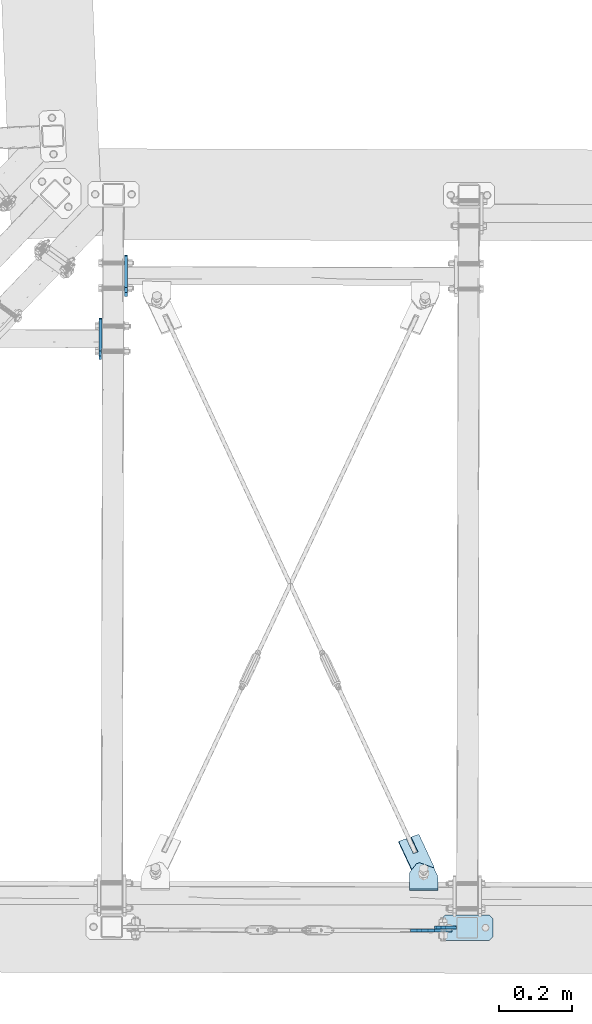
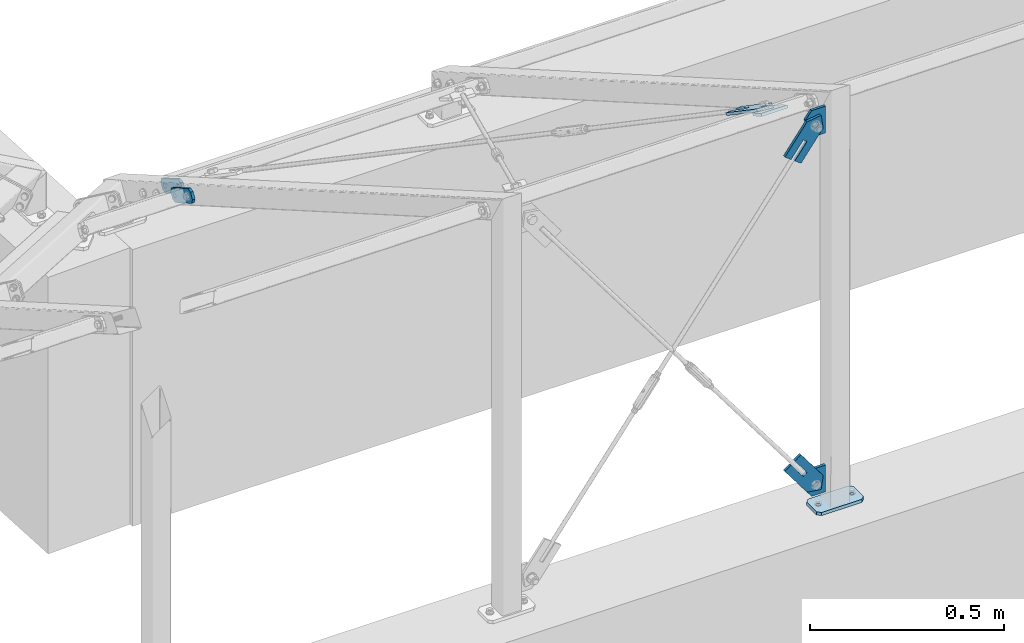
# One storey, part 28 of 288: 9 plates, 38 openings.
"""IFC2X3 building model written with IfcOpenShell, lengths in millimetres."""

from ifc_helpers import new_model, entity, si_unit, converted_unit, point, frame, frame_2d, origin, origin_with_axes, origin_2d_with_axis, place, context, project, spatial, polyline, circle_curve, line_curve, trimmed, segment, composite_curve, circle, outline, extrude, material, layer, layer_set, element, save


model = new_model("IFC2X3")

# Units and contexts
model_context = context("Model", 3, precision=1e-09, world=origin_with_axes())
ifc_project = project(units=[si_unit("LENGTHUNIT", "METRE", prefix="MILLI"), si_unit("AREAUNIT", "SQUARE_METRE"), si_unit("VOLUMEUNIT", "CUBIC_METRE"), converted_unit("PLANEANGLEUNIT", "DEGREE", entity("IfcPlaneAngleMeasure", 0.01745329), si_unit("PLANEANGLEUNIT", "RADIAN"), dimensions=[0, 0, 0, 0, 0, 0, 0])], contexts=[model_context])

# Site, building, storey
site_placement = place(None, origin_with_axes())
site = spatial("IfcSite", under=ifc_project, at=site_placement, Name="Remont ?wietlik?w nad MC w NCPP w Opolu", CompositionType="ELEMENT")
building_placement = place(site_placement, origin_with_axes())
building = spatial("IfcBuilding", under=site, at=building_placement, Name="Konstrukcja 1", CompositionType="ELEMENT")
storey_placement = place(building_placement, origin_with_axes())
storey = spatial("IfcBuildingStorey", under=building, at=storey_placement, Name="Default Storey", CompositionType="ELEMENT", Elevation=0.0)

# Plate, openings
ifc_material = material(Name="S235")
ifc_layer_1 = layer(ifc_material, 8.0)
ifc_layer_set_1 = layer_set([ifc_layer_1], Name="S235")
plate_1_placement = place(None, frame((1997.991643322, 1595.486455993, 250.98072755), z_axis=(0.999997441, -0.002262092, 1.05e-07), x_axis=(0.001959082, 0.866023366, -0.499999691)))
plate_1 = element("IfcPlate", 1, at=plate_1_placement, inside=storey, material=ifc_layer_set_1, Name="-", ObjectType="-", context=model_context, shape_type="SweptSolid", body=[
    extrude(outline(polyline([(0.0, 0.0), (120.0, 0.0), (120.0, 40.0), (0.0, 40.0), (0.0, 0.0)])), origin_with_axes(), (0.0, 0.0, 1.0), 8.0),
])
opening_1_placement = place(plate_1_placement, frame((0.0, 0.0, -0.01), z_axis=(0.0, 0.0, 1.0), x_axis=(1.0, 0.0, 0.0)))
element("IfcOpeningElement", 2, at=opening_1_placement, cuts=plate_1, ObjectType="Opening", context=model_context, shape_type="SweptSolid", body=[
    extrude(outline(composite_curve([segment(trimmed(line_curve((0.0, 40.0), (0.0, -1.0), 10.0), [point((0.0, 40.0))], [point((0.0, 30.0))], True, "CARTESIAN"), True, "CONTINUOUS"), segment(trimmed(circle_curve(frame_2d((10.0, 30.0), x_axis=(-1.0, 0.0)), 10.0), [point((0.0, 30.0))], [point((10.0, 40.0))], False, "CARTESIAN"), True, "CONTINUOUS"), segment(trimmed(line_curve((10.0, 40.0), (-1.0, 0.0), 10.0), [point((10.0, 40.0))], [point((0.0, 40.0))], True, "CARTESIAN"), True, "CONTINUOUS")], self_intersect=False)), origin(), (0.0, 0.0, 1.0), 8.02),
])
opening_2_placement = place(plate_1_placement, frame((0.0, 0.0, -0.01), z_axis=(0.0, 0.0, 1.0), x_axis=(1.0, 0.0, 0.0)))
element("IfcOpeningElement", 3, at=opening_2_placement, cuts=plate_1, ObjectType="Opening", context=model_context, shape_type="SweptSolid", body=[
    extrude(outline(composite_curve([segment(trimmed(line_curve((0.0, 0.0), (1.0, 0.0), 10.0), [point((0.0, 0.0))], [point((10.0, 0.0))], True, "CARTESIAN"), True, "CONTINUOUS"), segment(trimmed(circle_curve(frame_2d((10.0, 10.0), x_axis=(-1.0, 0.0)), 10.0), [point((10.0, 0.0))], [point((0.0, 10.0))], False, "CARTESIAN"), True, "CONTINUOUS"), segment(trimmed(line_curve((0.0, 10.0), (0.0, -1.0), 10.0), [point((0.0, 10.0))], [point((0.0, 0.0))], True, "CARTESIAN"), True, "CONTINUOUS")], self_intersect=False)), origin(), (0.0, 0.0, 1.0), 8.02),
])
opening_3_placement = place(plate_1_placement, frame((0.0, 0.0, -0.01), z_axis=(0.0, 0.0, 1.0), x_axis=(1.0, 0.0, 0.0)))
element("IfcOpeningElement", 4, at=opening_3_placement, cuts=plate_1, ObjectType="Opening", context=model_context, shape_type="SweptSolid", body=[
    extrude(outline(composite_curve([segment(trimmed(line_curve((120.0, 40.0), (-1.0, 0.0), 10.0), [point((120.0, 40.0))], [point((110.0, 40.0))], True, "CARTESIAN"), True, "CONTINUOUS"), segment(trimmed(circle_curve(frame_2d((110.0, 30.0), x_axis=(-1.0, 0.0)), 10.0), [point((110.0, 40.0))], [point((120.0, 30.0))], False, "CARTESIAN"), True, "CONTINUOUS"), segment(trimmed(line_curve((120.0, 30.0), (0.0, 1.0), 10.0), [point((120.0, 30.0))], [point((120.0, 40.0))], True, "CARTESIAN"), True, "CONTINUOUS")], self_intersect=False)), origin(), (0.0, 0.0, 1.0), 8.02),
])
opening_4_placement = place(plate_1_placement, frame((0.0, 0.0, -0.01), z_axis=(0.0, 0.0, 1.0), x_axis=(1.0, 0.0, 0.0)))
element("IfcOpeningElement", 5, at=opening_4_placement, cuts=plate_1, ObjectType="Opening", context=model_context, shape_type="SweptSolid", body=[
    extrude(outline(composite_curve([segment(trimmed(line_curve((120.0, 0.0), (0.0, 1.0), 10.0), [point((120.0, 0.0))], [point((120.0, 10.0))], True, "CARTESIAN"), True, "CONTINUOUS"), segment(trimmed(circle_curve(frame_2d((110.0, 10.0), x_axis=(-1.0, 0.0)), 10.0), [point((120.0, 10.0))], [point((110.0, 0.0))], False, "CARTESIAN"), True, "CONTINUOUS"), segment(trimmed(line_curve((110.0, 0.0), (1.0, 0.0), 10.0), [point((110.0, 0.0))], [point((120.0, 0.0))], True, "CARTESIAN"), True, "CONTINUOUS")], self_intersect=False)), origin(), (0.0, 0.0, 1.0), 8.02),
])
opening_5_placement = place(plate_1_placement, frame((60.0, 20.0, 8.5), z_axis=(0.0, 0.0, -1.0), x_axis=(-1.0, 0.0, 0.0)))
element("IfcOpeningElement", 6, at=opening_5_placement, cuts=plate_1, ObjectType="Opening", context=model_context, shape_type="SweptSolid", body=[
    extrude(circle(Radius=7.001, at=frame_2d((40.0, 0.0), x_axis=(1.0, 0.0))), origin(), (0.0, 0.0, 1.0), 9.0),
])
opening_6_placement = place(plate_1_placement, frame((60.0, 20.0, 8.5), z_axis=(0.0, 0.0, -1.0), x_axis=(-1.0, 0.0, 0.0)))
element("IfcOpeningElement", 7, at=opening_6_placement, cuts=plate_1, ObjectType="Opening", context=model_context, shape_type="SweptSolid", body=[
    extrude(circle(Radius=7.001, at=frame_2d((-40.0, 0.0), x_axis=(1.0, 0.0))), origin(), (0.0, 0.0, 1.0), 9.0),
])

plate_2_placement = place(None, frame((1927.599855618, 1422.439983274, 350.980405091), z_axis=(0.999997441, -0.002262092, 1.05e-07), x_axis=(0.001959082, 0.866023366, -0.499999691)))
plate_2 = element("IfcPlate", 8, at=plate_2_placement, inside=storey, material=ifc_layer_set_1, Name="-", ObjectType="-", context=model_context, shape_type="SweptSolid", body=[
    extrude(outline(polyline([(0.0, 0.0), (120.0, 0.0), (120.0, 40.0), (0.0, 40.0), (0.0, 0.0)])), origin_with_axes(), (0.0, 0.0, 1.0), 8.0),
])
opening_7_placement = place(plate_2_placement, frame((0.0, 0.0, -0.01), z_axis=(0.0, 0.0, 1.0), x_axis=(1.0, 0.0, 0.0)))
element("IfcOpeningElement", 9, at=opening_7_placement, cuts=plate_2, ObjectType="Opening", context=model_context, shape_type="SweptSolid", body=[
    extrude(outline(composite_curve([segment(trimmed(line_curve((0.0, 40.0), (0.0, -1.0), 10.0), [point((0.0, 40.0))], [point((0.0, 30.0))], True, "CARTESIAN"), True, "CONTINUOUS"), segment(trimmed(circle_curve(frame_2d((10.0, 30.0), x_axis=(-1.0, 0.0)), 10.0), [point((0.0, 30.0))], [point((10.0, 40.0))], False, "CARTESIAN"), True, "CONTINUOUS"), segment(trimmed(line_curve((10.0, 40.0), (-1.0, 0.0), 10.0), [point((10.0, 40.0))], [point((0.0, 40.0))], True, "CARTESIAN"), True, "CONTINUOUS")], self_intersect=False)), origin(), (0.0, 0.0, 1.0), 8.02),
])
opening_8_placement = place(plate_2_placement, frame((0.0, 0.0, -0.01), z_axis=(0.0, 0.0, 1.0), x_axis=(1.0, 0.0, 0.0)))
element("IfcOpeningElement", 10, at=opening_8_placement, cuts=plate_2, ObjectType="Opening", context=model_context, shape_type="SweptSolid", body=[
    extrude(outline(composite_curve([segment(trimmed(line_curve((0.0, 0.0), (1.0, 0.0), 10.0), [point((0.0, 0.0))], [point((10.0, 0.0))], True, "CARTESIAN"), True, "CONTINUOUS"), segment(trimmed(circle_curve(frame_2d((10.0, 10.0), x_axis=(-1.0, 0.0)), 10.0), [point((10.0, 0.0))], [point((0.0, 10.0))], False, "CARTESIAN"), True, "CONTINUOUS"), segment(trimmed(line_curve((0.0, 10.0), (0.0, -1.0), 10.0), [point((0.0, 10.0))], [point((0.0, 0.0))], True, "CARTESIAN"), True, "CONTINUOUS")], self_intersect=False)), origin(), (0.0, 0.0, 1.0), 8.02),
])
opening_9_placement = place(plate_2_placement, frame((0.0, 0.0, -0.01), z_axis=(0.0, 0.0, 1.0), x_axis=(1.0, 0.0, 0.0)))
element("IfcOpeningElement", 11, at=opening_9_placement, cuts=plate_2, ObjectType="Opening", context=model_context, shape_type="SweptSolid", body=[
    extrude(outline(composite_curve([segment(trimmed(line_curve((120.0, 40.0), (-1.0, 0.0), 10.0), [point((120.0, 40.0))], [point((110.0, 40.0))], True, "CARTESIAN"), True, "CONTINUOUS"), segment(trimmed(circle_curve(frame_2d((110.0, 30.0), x_axis=(-1.0, 0.0)), 10.0), [point((110.0, 40.0))], [point((120.0, 30.0))], False, "CARTESIAN"), True, "CONTINUOUS"), segment(trimmed(line_curve((120.0, 30.0), (0.0, 1.0), 10.0), [point((120.0, 30.0))], [point((120.0, 40.0))], True, "CARTESIAN"), True, "CONTINUOUS")], self_intersect=False)), origin(), (0.0, 0.0, 1.0), 8.02),
])
opening_10_placement = place(plate_2_placement, frame((0.0, 0.0, -0.01), z_axis=(0.0, 0.0, 1.0), x_axis=(1.0, 0.0, 0.0)))
element("IfcOpeningElement", 12, at=opening_10_placement, cuts=plate_2, ObjectType="Opening", context=model_context, shape_type="SweptSolid", body=[
    extrude(outline(composite_curve([segment(trimmed(line_curve((120.0, 0.0), (0.0, 1.0), 10.0), [point((120.0, 0.0))], [point((120.0, 10.0))], True, "CARTESIAN"), True, "CONTINUOUS"), segment(trimmed(circle_curve(frame_2d((110.0, 10.0), x_axis=(-1.0, 0.0)), 10.0), [point((120.0, 10.0))], [point((110.0, 0.0))], False, "CARTESIAN"), True, "CONTINUOUS"), segment(trimmed(line_curve((110.0, 0.0), (1.0, 0.0), 10.0), [point((110.0, 0.0))], [point((120.0, 0.0))], True, "CARTESIAN"), True, "CONTINUOUS")], self_intersect=False)), origin(), (0.0, 0.0, 1.0), 8.02),
])
opening_11_placement = place(plate_2_placement, frame((60.0, 20.000292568, 8.5), z_axis=(0.0, 0.0, -1.0), x_axis=(-1.0, 0.0, 0.0)))
element("IfcOpeningElement", 13, at=opening_11_placement, cuts=plate_2, ObjectType="Opening", context=model_context, shape_type="SweptSolid", body=[
    extrude(circle(Radius=7.001, at=frame_2d((40.0, 0.0), x_axis=(1.0, 0.0))), origin(), (0.0, 0.0, 1.0), 9.0),
])
opening_12_placement = place(plate_2_placement, frame((60.0, 20.000292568, 8.5), z_axis=(0.0, 0.0, -1.0), x_axis=(-1.0, 0.0, 0.0)))
element("IfcOpeningElement", 14, at=opening_12_placement, cuts=plate_2, ObjectType="Opening", context=model_context, shape_type="SweptSolid", body=[
    extrude(circle(Radius=7.001, at=frame_2d((-40.0, 0.0), x_axis=(1.0, 0.0))), origin(), (0.0, 0.0, 1.0), 9.0),
])

ifc_layer_2 = layer(ifc_material, 10.0)
ifc_layer_set_2 = layer_set([ifc_layer_2], Name="S235")
plate_3_placement = place(None, frame((3008.536209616, -96.783237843, 10.000000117), z_axis=(0.0, 0.0, -1.0), x_axis=(-0.002261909, -0.999997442, 0.0)))
plate_3 = element("IfcPlate", 15, at=plate_3_placement, inside=storey, material=ifc_layer_set_2, Name="Baseplate", ObjectType="Baseplate", context=model_context, shape_type="SweptSolid", body=[
    extrude(outline(polyline([(0.0, 0.0), (70.0, 0.0), (70.0, 140.0), (0.0, 140.0), (0.0, 0.0)])), origin_with_axes(), (0.0, 0.0, 1.0), 10.0),
])
opening_13_placement = place(plate_3_placement, frame((0.0, 0.0, -0.01), z_axis=(0.0, 0.0, 1.0), x_axis=(1.0, 0.0, 0.0)))
element("IfcOpeningElement", 16, at=opening_13_placement, cuts=plate_3, ObjectType="Opening", context=model_context, shape_type="SweptSolid", body=[
    extrude(outline(composite_curve([segment(trimmed(line_curve((70.0, 0.0), (0.0, 1.0), 10.0), [point((70.0, 0.0))], [point((70.0, 10.0))], True, "CARTESIAN"), True, "CONTINUOUS"), segment(trimmed(circle_curve(frame_2d((60.0, 10.0), x_axis=(-1.0, 0.0)), 10.0), [point((70.0, 10.0))], [point((60.0, 0.0))], False, "CARTESIAN"), True, "CONTINUOUS"), segment(trimmed(line_curve((60.0, 0.0), (1.0, 0.0), 10.0), [point((60.0, 0.0))], [point((70.0, 0.0))], True, "CARTESIAN"), True, "CONTINUOUS")], self_intersect=False)), origin(), (0.0, 0.0, 1.0), 10.02),
])
opening_14_placement = place(plate_3_placement, frame((0.0, 0.0, -0.01), z_axis=(0.0, 0.0, 1.0), x_axis=(1.0, 0.0, 0.0)))
element("IfcOpeningElement", 17, at=opening_14_placement, cuts=plate_3, ObjectType="Opening", context=model_context, shape_type="SweptSolid", body=[
    extrude(outline(composite_curve([segment(trimmed(line_curve((0.0, 0.0), (1.0, 0.0), 10.0), [point((0.0, 0.0))], [point((10.0, 0.0))], True, "CARTESIAN"), True, "CONTINUOUS"), segment(trimmed(circle_curve(frame_2d((10.0, 10.0), x_axis=(-1.0, 0.0)), 10.0), [point((10.0, 0.0))], [point((0.0, 10.0))], False, "CARTESIAN"), True, "CONTINUOUS"), segment(trimmed(line_curve((0.0, 10.0), (0.0, -1.0), 10.0), [point((0.0, 10.0))], [point((0.0, 0.0))], True, "CARTESIAN"), True, "CONTINUOUS")], self_intersect=False)), origin(), (0.0, 0.0, 1.0), 10.02),
])
opening_15_placement = place(plate_3_placement, frame((0.0, 0.0, -0.01), z_axis=(0.0, 0.0, 1.0), x_axis=(1.0, 0.0, 0.0)))
element("IfcOpeningElement", 18, at=opening_15_placement, cuts=plate_3, ObjectType="Opening", context=model_context, shape_type="SweptSolid", body=[
    extrude(outline(composite_curve([segment(trimmed(line_curve((70.0, 140.0), (-1.0, 0.0), 10.0), [point((70.0, 140.0))], [point((60.0, 140.0))], True, "CARTESIAN"), True, "CONTINUOUS"), segment(trimmed(circle_curve(frame_2d((60.0, 130.0), x_axis=(-1.0, 0.0)), 10.0), [point((60.0, 140.0))], [point((70.0, 130.0))], False, "CARTESIAN"), True, "CONTINUOUS"), segment(trimmed(line_curve((70.0, 130.0), (0.0, 1.0), 10.0), [point((70.0, 130.0))], [point((70.0, 140.0))], True, "CARTESIAN"), True, "CONTINUOUS")], self_intersect=False)), origin(), (0.0, 0.0, 1.0), 10.02),
])
opening_16_placement = place(plate_3_placement, frame((0.0, 0.0, -0.01), z_axis=(0.0, 0.0, 1.0), x_axis=(1.0, 0.0, 0.0)))
element("IfcOpeningElement", 19, at=opening_16_placement, cuts=plate_3, ObjectType="Opening", context=model_context, shape_type="SweptSolid", body=[
    extrude(outline(composite_curve([segment(trimmed(line_curve((0.0, 140.0), (0.0, -1.0), 10.0), [point((0.0, 140.0))], [point((0.0, 130.0))], True, "CARTESIAN"), True, "CONTINUOUS"), segment(trimmed(circle_curve(frame_2d((10.0, 130.0), x_axis=(-1.0, 0.0)), 10.0), [point((0.0, 130.0))], [point((10.0, 140.0))], False, "CARTESIAN"), True, "CONTINUOUS"), segment(trimmed(line_curve((10.0, 140.0), (-1.0, 0.0), 10.0), [point((10.0, 140.0))], [point((0.0, 140.0))], True, "CARTESIAN"), True, "CONTINUOUS")], self_intersect=False)), origin(), (0.0, 0.0, 1.0), 10.02),
])
opening_17_placement = place(plate_3_placement, frame((35.0, 20.0, 10.5), z_axis=(0.0, 0.0, -1.0), x_axis=(1.0, 0.0, 0.0)))
element("IfcOpeningElement", 20, at=opening_17_placement, cuts=plate_3, ObjectType="Opening", context=model_context, shape_type="SweptSolid", body=[
    extrude(circle(Radius=6.001, at=origin_2d_with_axis()), origin(), (0.0, 0.0, 1.0), 11.0),
])
opening_18_placement = place(plate_3_placement, frame((35.0, 120.0, 10.5), z_axis=(0.0, 0.0, -1.0), x_axis=(1.0, 0.0, 0.0)))
element("IfcOpeningElement", 21, at=opening_18_placement, cuts=plate_3, ObjectType="Opening", context=model_context, shape_type="SweptSolid", body=[
    extrude(circle(Radius=6.001, at=origin_2d_with_axis()), origin(), (0.0, 0.0, 1.0), 11.0),
])

plate_4_placement = place(None, frame((2782.64498648, -135.257683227, 1146.652453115), z_axis=(-0.002356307, -0.999997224, 0.0), x_axis=(0.800992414, -0.001887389, -0.598671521)))
plate_4 = element("IfcPlate", 22, at=plate_4_placement, inside=storey, material=ifc_layer_set_1, Name="Tab_Plate#2", ObjectType="Tab_Plate#2", context=model_context, shape_type="SweptSolid", body=[
    extrude(outline(polyline([(0.0, 0.0), (60.0, 0.0), (60.0, 140.0), (0.0, 140.0), (0.0, 0.0)])), origin_with_axes(), (0.0, 0.0, 1.0), 8.0),
])
opening_19_placement = place(plate_4_placement, frame((0.0, 0.0, -0.01), z_axis=(0.0, 0.0, 1.0), x_axis=(1.0, 0.0, 0.0)))
element("IfcOpeningElement", 23, at=opening_19_placement, cuts=plate_4, ObjectType="Opening", context=model_context, shape_type="SweptSolid", body=[
    extrude(outline(composite_curve([segment(trimmed(line_curve((60.0, 140.0), (-1.0, 0.0), 30.0), [point((60.0, 140.0))], [point((30.0, 140.0))], True, "CARTESIAN"), True, "CONTINUOUS"), segment(trimmed(circle_curve(frame_2d((30.0, 110.0), x_axis=(-1.0, 0.0)), 30.0), [point((30.0, 140.0))], [point((60.0, 110.0))], False, "CARTESIAN"), True, "CONTINUOUS"), segment(trimmed(line_curve((60.0, 110.0), (0.0, 1.0), 30.0), [point((60.0, 110.0))], [point((60.0, 140.0))], True, "CARTESIAN"), True, "CONTINUOUS")], self_intersect=False)), origin(), (0.0, 0.0, 1.0), 8.02),
])
opening_20_placement = place(plate_4_placement, frame((0.0, 0.0, -0.01), z_axis=(0.0, 0.0, 1.0), x_axis=(1.0, 0.0, 0.0)))
element("IfcOpeningElement", 24, at=opening_20_placement, cuts=plate_4, ObjectType="Opening", context=model_context, shape_type="SweptSolid", body=[
    extrude(outline(composite_curve([segment(trimmed(line_curve((0.0, 140.0), (0.0, -1.0), 30.0), [point((0.0, 140.0))], [point((0.0, 110.0))], True, "CARTESIAN"), True, "CONTINUOUS"), segment(trimmed(circle_curve(frame_2d((30.0, 110.0), x_axis=(-1.0, 0.0)), 30.0), [point((0.0, 110.0))], [point((30.0, 140.0))], False, "CARTESIAN"), True, "CONTINUOUS"), segment(trimmed(line_curve((30.0, 140.0), (-1.0, 0.0), 30.0), [point((30.0, 140.0))], [point((0.0, 140.0))], True, "CARTESIAN"), True, "CONTINUOUS")], self_intersect=False)), origin(), (0.0, 0.0, 1.0), 8.02),
])
opening_21_placement = place(plate_4_placement, frame((0.0, 0.0, 8.1), z_axis=(0.0, 0.0, -1.0), x_axis=(-0.800994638, -0.598671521, 0.0)))
element("IfcOpeningElement", 25, at=opening_21_placement, cuts=plate_4, ObjectType="Opening", context=model_context, shape_type="SweptSolid", body=[
    extrude(outline(polyline([(-54.941637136, 35.092627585), (-66.157164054, 26.710028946), (-29.637003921, -22.152245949), (-18.421477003, -13.76964731), (-54.941637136, 35.092627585)])), origin(), (0.0, 0.0, 1.0), 8.2),
])
opening_22_placement = place(plate_4_placement, frame((30.0, 110.0, 8.5), z_axis=(0.0, 0.0, -1.0), x_axis=(0.0, -1.0, 0.0)))
element("IfcOpeningElement", 26, at=opening_22_placement, cuts=plate_4, ObjectType="Opening", context=model_context, shape_type="SweptSolid", body=[
    extrude(circle(Radius=9.001, at=origin_2d_with_axis()), origin(), (0.0, 0.0, 1.0), 9.0),
])

plate_5_placement = place(None, frame((2878.598120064, -135.48377891, 1174.811732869), z_axis=(0.002356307, 0.999997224, 0.0), x_axis=(-0.800992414, 0.001887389, 0.598671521)))
plate_5 = element("IfcPlate", 27, at=plate_5_placement, inside=storey, material=ifc_layer_set_1, Name="Gusset#2", ObjectType="Gusset#2", context=model_context, shape_type="SweptSolid", body=[
    extrude(outline(polyline([(0.0, 0.0), (60.0, 0.0), (60.0, 60.0), (26.367154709, 85.137529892), (-23.909261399, 17.870024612), (0.0, 0.0)])), origin_with_axes(), (0.0, 0.0, 1.0), 8.0),
])
opening_23_placement = place(plate_5_placement, frame((30.0, 30.0, -0.5), z_axis=(0.0, 0.0, 1.0), x_axis=(0.0, -1.0, 0.0)))
element("IfcOpeningElement", 28, at=opening_23_placement, cuts=plate_5, ObjectType="Opening", context=model_context, shape_type="SweptSolid", body=[
    extrude(circle(Radius=9.001, at=origin_2d_with_axis()), origin(), (0.0, 0.0, 1.0), 9.0),
])
opening_24_placement = place(plate_5_placement, frame((0.0, 0.0, -0.01), z_axis=(0.0, 0.0, 1.0), x_axis=(1.0, 0.0, 0.0)))
element("IfcOpeningElement", 29, at=opening_24_placement, cuts=plate_5, ObjectType="Opening", context=model_context, shape_type="SweptSolid", body=[
    extrude(outline(composite_curve([segment(trimmed(line_curve((60.0, 0.0), (0.0, 1.0), 30.0), [point((60.0, 0.0))], [point((60.0, 30.0))], True, "CARTESIAN"), True, "CONTINUOUS"), segment(trimmed(circle_curve(frame_2d((30.0, 30.0), x_axis=(-1.0, 0.0)), 30.0), [point((60.0, 30.0))], [point((30.0, 0.0))], False, "CARTESIAN"), True, "CONTINUOUS"), segment(trimmed(line_curve((30.0, 0.0), (1.0, 0.0), 30.0), [point((30.0, 0.0))], [point((60.0, 0.0))], True, "CARTESIAN"), True, "CONTINUOUS")], self_intersect=False)), origin(), (0.0, 0.0, 1.0), 8.02),
])

plate_6_placement = place(None, frame((2782.627032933, -143.195004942, 158.347547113), z_axis=(0.002167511, 0.999997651, 0.0), x_axis=(0.800992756, -0.001736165, 0.598671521)))
plate_6 = element("IfcPlate", 30, at=plate_6_placement, inside=storey, material=ifc_layer_set_1, Name="Tab_Plate#1", ObjectType="Tab_Plate#1", context=model_context, shape_type="SweptSolid", body=[
    extrude(outline(polyline([(0.0, 0.0), (60.0, 0.0), (60.0, 140.0), (0.0, 140.0), (0.0, 0.0)])), origin_with_axes(), (0.0, 0.0, 1.0), 8.0),
])
opening_25_placement = place(plate_6_placement, frame((0.0, 0.0, -0.01), z_axis=(0.0, 0.0, 1.0), x_axis=(1.0, 0.0, 0.0)))
element("IfcOpeningElement", 31, at=opening_25_placement, cuts=plate_6, ObjectType="Opening", context=model_context, shape_type="SweptSolid", body=[
    extrude(outline(composite_curve([segment(trimmed(line_curve((60.0, 140.0), (-1.0, 0.0), 30.0), [point((60.0, 140.0))], [point((30.0, 140.0))], True, "CARTESIAN"), True, "CONTINUOUS"), segment(trimmed(circle_curve(frame_2d((30.0, 110.0), x_axis=(-1.0, 0.0)), 30.0), [point((30.0, 140.0))], [point((60.0, 110.0))], False, "CARTESIAN"), True, "CONTINUOUS"), segment(trimmed(line_curve((60.0, 110.0), (0.0, 1.0), 30.0), [point((60.0, 110.0))], [point((60.0, 140.0))], True, "CARTESIAN"), True, "CONTINUOUS")], self_intersect=False)), origin(), (0.0, 0.0, 1.0), 8.02),
])
opening_26_placement = place(plate_6_placement, frame((0.0, 0.0, -0.01), z_axis=(0.0, 0.0, 1.0), x_axis=(1.0, 0.0, 0.0)))
element("IfcOpeningElement", 32, at=opening_26_placement, cuts=plate_6, ObjectType="Opening", context=model_context, shape_type="SweptSolid", body=[
    extrude(outline(composite_curve([segment(trimmed(line_curve((0.0, 140.0), (0.0, -1.0), 30.0), [point((0.0, 140.0))], [point((0.0, 110.0))], True, "CARTESIAN"), True, "CONTINUOUS"), segment(trimmed(circle_curve(frame_2d((30.0, 110.0), x_axis=(-1.0, 0.0)), 30.0), [point((0.0, 110.0))], [point((30.0, 140.0))], False, "CARTESIAN"), True, "CONTINUOUS"), segment(trimmed(line_curve((30.0, 140.0), (-1.0, 0.0), 30.0), [point((30.0, 140.0))], [point((0.0, 140.0))], True, "CARTESIAN"), True, "CONTINUOUS")], self_intersect=False)), origin(), (0.0, 0.0, 1.0), 8.02),
])
opening_27_placement = place(plate_6_placement, frame((0.0, 0.0, 8.1), z_axis=(0.0, 0.0, -1.0), x_axis=(0.800994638, 0.598671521, 0.0)))
element("IfcOpeningElement", 33, at=opening_27_placement, cuts=plate_6, ObjectType="Opening", context=model_context, shape_type="SweptSolid", body=[
    extrude(outline(polyline([(54.941637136, -35.092627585), (66.157164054, -26.710028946), (29.637003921, 22.152245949), (18.421477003, 13.76964731), (54.941637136, -35.092627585)])), origin(), (0.0, 0.0, 1.0), 8.2),
])
opening_28_placement = place(plate_6_placement, frame((30.0, 110.0, 8.5), z_axis=(0.0, 0.0, -1.0), x_axis=(0.0, -1.0, 0.0)))
element("IfcOpeningElement", 34, at=opening_28_placement, cuts=plate_6, ObjectType="Opening", context=model_context, shape_type="SweptSolid", body=[
    extrude(circle(Radius=9.001, at=origin_2d_with_axis()), origin(), (0.0, 0.0, 1.0), 9.0),
])

plate_7_placement = place(None, frame((2878.614887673, -127.403022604, 130.188267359), z_axis=(-0.002167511, -0.999997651, 0.0), x_axis=(-0.800992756, 0.001736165, -0.598671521)))
plate_7 = element("IfcPlate", 35, at=plate_7_placement, inside=storey, material=ifc_layer_set_1, Name="Gusset#1", ObjectType="Gusset#1", context=model_context, shape_type="SweptSolid", body=[
    extrude(outline(polyline([(0.0, 0.0), (60.0, 0.0), (60.0, 60.0), (26.36594491, 85.138434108), (-23.910471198, 17.870928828), (0.0, 0.0)])), origin_with_axes(), (0.0, 0.0, 1.0), 8.0),
])
opening_29_placement = place(plate_7_placement, frame((30.0, 30.0, -0.5), z_axis=(0.0, 0.0, 1.0), x_axis=(0.0, -1.0, 0.0)))
element("IfcOpeningElement", 36, at=opening_29_placement, cuts=plate_7, ObjectType="Opening", context=model_context, shape_type="SweptSolid", body=[
    extrude(circle(Radius=9.001, at=origin_2d_with_axis()), origin(), (0.0, 0.0, 1.0), 9.0),
])
opening_30_placement = place(plate_7_placement, frame((0.0, 0.0, -0.01), z_axis=(0.0, 0.0, 1.0), x_axis=(1.0, 0.0, 0.0)))
element("IfcOpeningElement", 37, at=opening_30_placement, cuts=plate_7, ObjectType="Opening", context=model_context, shape_type="SweptSolid", body=[
    extrude(outline(composite_curve([segment(trimmed(line_curve((60.0, 0.0), (0.0, 1.0), 30.0), [point((60.0, 0.0))], [point((60.0, 30.0))], True, "CARTESIAN"), True, "CONTINUOUS"), segment(trimmed(circle_curve(frame_2d((30.0, 30.0), x_axis=(-1.0, 0.0)), 30.0), [point((60.0, 30.0))], [point((30.0, 0.0))], False, "CARTESIAN"), True, "CONTINUOUS"), segment(trimmed(line_curve((30.0, 0.0), (1.0, 0.0), 30.0), [point((30.0, 0.0))], [point((60.0, 0.0))], True, "CARTESIAN"), True, "CONTINUOUS")], self_intersect=False)), origin(), (0.0, 0.0, 1.0), 8.02),
])

plate_8_placement = place(None, frame((2805.731677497, 120.814497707, 1129.046139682), z_axis=(0.001127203, 0.499998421, 0.866025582), x_axis=(-0.927238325, -0.323778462, 0.18813983)))
plate_8 = element("IfcPlate", 38, at=plate_8_placement, inside=storey, material=ifc_layer_set_1, Name="Tab_Plate#1", ObjectType="Tab_Plate#1", context=model_context, shape_type="SweptSolid", body=[
    extrude(outline(polyline([(0.0, 0.0), (60.0, 0.0), (60.0, 140.0), (0.0, 140.0), (0.0, 0.0)])), origin_with_axes(), (0.0, 0.0, 1.0), 8.0),
])
opening_31_placement = place(plate_8_placement, frame((0.0, 0.0, -0.01), z_axis=(0.0, 0.0, 1.0), x_axis=(1.0, 0.0, 0.0)))
element("IfcOpeningElement", 39, at=opening_31_placement, cuts=plate_8, ObjectType="Opening", context=model_context, shape_type="SweptSolid", body=[
    extrude(outline(composite_curve([segment(trimmed(line_curve((60.0, 140.0), (-1.0, 0.0), 30.0), [point((60.0, 140.0))], [point((30.0, 140.0))], True, "CARTESIAN"), True, "CONTINUOUS"), segment(trimmed(circle_curve(frame_2d((30.0, 110.0), x_axis=(-1.0, 0.0)), 30.0), [point((30.0, 140.0))], [point((60.0, 110.0))], False, "CARTESIAN"), True, "CONTINUOUS"), segment(trimmed(line_curve((60.0, 110.0), (0.0, 1.0), 30.0), [point((60.0, 110.0))], [point((60.0, 140.0))], True, "CARTESIAN"), True, "CONTINUOUS")], self_intersect=False)), origin(), (0.0, 0.0, 1.0), 8.02),
])
opening_32_placement = place(plate_8_placement, frame((0.0, 0.0, -0.01), z_axis=(0.0, 0.0, 1.0), x_axis=(1.0, 0.0, 0.0)))
element("IfcOpeningElement", 40, at=opening_32_placement, cuts=plate_8, ObjectType="Opening", context=model_context, shape_type="SweptSolid", body=[
    extrude(outline(composite_curve([segment(trimmed(line_curve((0.0, 140.0), (0.0, -1.0), 30.0), [point((0.0, 140.0))], [point((0.0, 110.0))], True, "CARTESIAN"), True, "CONTINUOUS"), segment(trimmed(circle_curve(frame_2d((30.0, 110.0), x_axis=(-1.0, 0.0)), 30.0), [point((0.0, 110.0))], [point((30.0, 140.0))], False, "CARTESIAN"), True, "CONTINUOUS"), segment(trimmed(line_curve((30.0, 140.0), (-1.0, 0.0), 30.0), [point((30.0, 140.0))], [point((0.0, 140.0))], True, "CARTESIAN"), True, "CONTINUOUS")], self_intersect=False)), origin(), (0.0, 0.0, 1.0), 8.02),
])
opening_33_placement = place(plate_8_placement, frame((0.0, 0.0, 8.1), z_axis=(0.0, 0.0, -1.0), x_axis=(-0.92650604, 0.376279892, 0.0)))
element("IfcOpeningElement", 41, at=opening_33_placement, cuts=plate_8, ObjectType="Opening", context=model_context, shape_type="SweptSolid", body=[
    extrude(outline(polyline([(-2.118061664, 55.906795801), (-15.090999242, 61.175466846), (-34.282026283, 13.92180577), (-21.309088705, 8.653134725), (-2.118061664, 55.906795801)])), origin(), (0.0, 0.0, 1.0), 8.2),
])
opening_34_placement = place(plate_8_placement, frame((30.0, 119.001, -0.5), z_axis=(0.0, 0.0, -1.0), x_axis=(-1.0, 0.0, 0.0)))
element("IfcOpeningElement", 42, at=opening_34_placement, cuts=plate_8, ObjectType="Opening", context=model_context, shape_type="SweptSolid", body=[
    extrude(circle(Radius=9.001, at=frame_2d((0.0, -9.001), x_axis=(1.0, 0.0))), origin(), (0.0, 0.0, -1.0), 9.0),
])

plate_9_placement = place(None, frame((2780.054981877, 37.129855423, 1177.394748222), z_axis=(-0.001127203, -0.499998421, -0.866025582), x_axis=(0.927238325, 0.323778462, -0.18813983)))
plate_9 = element("IfcPlate", 43, at=plate_9_placement, inside=storey, material=ifc_layer_set_1, Name="Gusset#1", ObjectType="Gusset#1", context=model_context, shape_type="SweptSolid", body=[
    extrude(outline(polyline([(0.0, 0.0), (60.0, 0.0), (60.0, 60.0), (45.293350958, 96.211175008), (-27.128999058, 66.797876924), (0.0, 0.0)])), origin_with_axes(), (0.0, 0.0, 1.0), 8.0),
])
opening_35_placement = place(plate_9_placement, frame((30.0, 39.001, 8.5), z_axis=(0.0, 0.0, 1.0), x_axis=(1.0, 0.0, 0.0)))
element("IfcOpeningElement", 44, at=opening_35_placement, cuts=plate_9, ObjectType="Opening", context=model_context, shape_type="SweptSolid", body=[
    extrude(circle(Radius=9.001, at=frame_2d((0.0, -9.001), x_axis=(1.0, 0.0))), origin(), (0.0, 0.0, -1.0), 9.0),
])
opening_36_placement = place(plate_9_placement, frame((0.0, 0.0, -0.01), z_axis=(0.0, 0.0, 1.0), x_axis=(1.0, 0.0, 0.0)))
element("IfcOpeningElement", 45, at=opening_36_placement, cuts=plate_9, ObjectType="Opening", context=model_context, shape_type="SweptSolid", body=[
    extrude(outline(composite_curve([segment(trimmed(line_curve((0.0, 0.0), (1.0, 0.0), 20.195732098), [point((0.0, 0.0))], [point((20.195732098, 0.0))], True, "CARTESIAN"), True, "CONTINUOUS"), segment(trimmed(circle_curve(frame_2d((20.195732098, 30.0), x_axis=(-1.0, 0.0)), 30.0), [point((20.195732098, 0.0))], [point((-7.599373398, 18.711416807))], False, "CARTESIAN"), True, "CONTINUOUS"), segment(trimmed(line_curve((-7.599373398, 18.711416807), (0.376286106, -0.926503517), 20.195732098), [point((-7.599373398, 18.711416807))], [point((0.0, 0.0))], True, "CARTESIAN"), True, "CONTINUOUS")], self_intersect=False)), origin(), (0.0, 0.0, 1.0), 8.02),
])
opening_37_placement = place(plate_9_placement, frame((0.0, 0.0, -0.01), z_axis=(0.0, 0.0, 1.0), x_axis=(1.0, 0.0, 0.0)))
element("IfcOpeningElement", 46, at=opening_37_placement, cuts=plate_9, ObjectType="Opening", context=model_context, shape_type="SweptSolid", body=[
    extrude(outline(composite_curve([segment(trimmed(line_curve((60.0, 0.0), (0.0, 1.0), 30.0), [point((60.0, 0.0))], [point((60.0, 30.0))], True, "CARTESIAN"), True, "CONTINUOUS"), segment(trimmed(circle_curve(frame_2d((30.0, 30.0), x_axis=(-1.0, 0.0)), 30.0), [point((60.0, 30.0))], [point((30.0, 0.0))], False, "CARTESIAN"), True, "CONTINUOUS"), segment(trimmed(line_curve((30.0, 0.0), (1.0, 0.0), 30.0), [point((30.0, 0.0))], [point((60.0, 0.0))], True, "CARTESIAN"), True, "CONTINUOUS")], self_intersect=False)), origin(), (0.0, 0.0, 1.0), 8.02),
])
opening_38_placement = place(plate_9_placement, frame((0.0, 0.0, -0.01), z_axis=(0.0, 0.0, 1.0), x_axis=(1.0, 0.0, 0.0)))
element("IfcOpeningElement", 47, at=opening_38_placement, cuts=plate_9, ObjectType="Opening", context=model_context, shape_type="SweptSolid", body=[
    extrude(outline(composite_curve([segment(trimmed(line_curve((60.0, 60.0), (-0.376286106, 0.926503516), 5.859622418), [point((60.0, 60.0))], [point((57.795105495, 65.428960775))], True, "CARTESIAN"), True, "CONTINUOUS"), segment(trimmed(circle_curve(frame_2d((30.0, 54.140377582), x_axis=(-1.0, 0.0)), 30.0), [point((57.795105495, 65.428960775))], [point((60.0, 54.140377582))], False, "CARTESIAN"), True, "CONTINUOUS"), segment(trimmed(line_curve((60.0, 54.140377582), (0.0, 1.0), 5.859622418), [point((60.0, 54.140377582))], [point((60.0, 60.0))], True, "CARTESIAN"), True, "CONTINUOUS")], self_intersect=False)), origin(), (0.0, 0.0, 1.0), 8.02),
])

save(model, "model.ifc")
